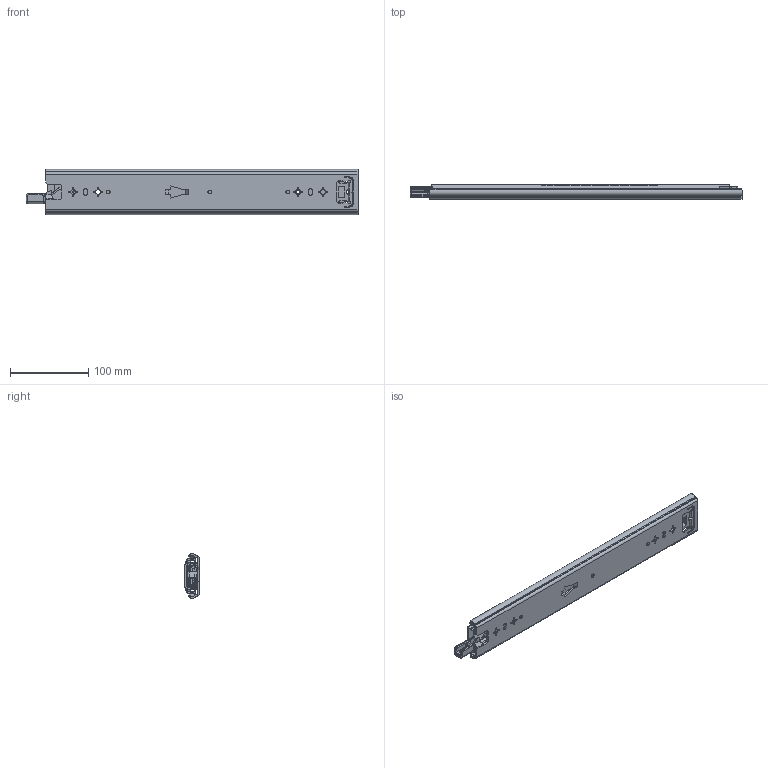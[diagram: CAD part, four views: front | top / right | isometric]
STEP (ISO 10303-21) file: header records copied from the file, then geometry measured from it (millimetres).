
FILE_DESCRIPTION((''),'2;1');
FILE_NAME('KP-57-01ZUZHUANGTU-16_ASM','2023-03-30T',('jishu015'),(''),'PRO/ENGINEER BY PARAMETRIC TECHNOLOGY CORPORATION, 2010280','PRO/ENGINEER BY PARAMETRIC TECHNOLOGY CORPORATION, 2010280','');
FILE_SCHEMA(('CONFIG_CONTROL_DESIGN'));
Length unit declared in the file: millimetre
Products named in the file (22): KP-57-01WEIKE-20__; 1057WEIJIAO__________________; WAIKE_________________ASM; KP-57-01ZHONGGUI-26_____; ZHONGGUIPEIJIAN-20__; ZHONGGUISUOKOU-18_; KP-57-01ZHONGGUI-26______ASM; 1057XIAOZHUJIA11; 1057-5-6GANZHU1; 1057XIAOZHUJIA-14GE26______ASM; KP-57-01NEIGUI-22___; PJ-57-08________________; DIAOPIAN-11________________; 50XINSUOKOU-1________________; TANHUANG________________; 1053-3SBANJI122______________; JIAO11______________; KP-57-01NEIGUI-22____ASM; 1053ZHUTIAO-275_____; 53-5-6GANZHU1__; 1053ZHUTIAO-175MM111__ASM; KP-57-01ZUZHUANGTU-16_ASM
Assembly tree (50 placements, depth 3):
  KP-57-01ZUZHUANGTU-16_ASM
    WAIKE_________________ASM
      KP-57-01WEIKE-20__
      1057WEIJIAO__________________
    KP-57-01ZHONGGUI-26______ASM
      KP-57-01ZHONGGUI-26_____
      ZHONGGUIPEIJIAN-20__
      ZHONGGUISUOKOU-18_
    1057XIAOZHUJIA-14GE26______ASM
      1057XIAOZHUJIA11
      1057-5-6GANZHU1  x24
    KP-57-01NEIGUI-22____ASM
      KP-57-01NEIGUI-22___
      PJ-57-08________________
      DIAOPIAN-11________________
      50XINSUOKOU-1________________
      TANHUANG________________
      1053-3SBANJI122______________
      JIAO11______________
    1053ZHUTIAO-175MM111__ASM  x2
      1053ZHUTIAO-275_____
      53-5-6GANZHU1__
Bounding box: 425.42 x 19 x 57.67 mm (x, y, z)
Volume: 174235.2 mm3; surface area: 187937.5 mm2
Topology: 53 solids, 53 shells, 1608 faces, 4552 edges, 2861 vertices
Faces by surface type: plane 689, cylinder 666, sphere 83, bspline 78, cone 44, torus 25, extrusion 23
Entity records: 53962 total; most frequent: CARTESIAN_POINT 14192, ORIENTED_EDGE 8396, DIRECTION 8155, EDGE_CURVE 4198, AXIS2_PLACEMENT_3D 2815, VERTEX_POINT 2705, VECTOR 2525, LINE 2502
